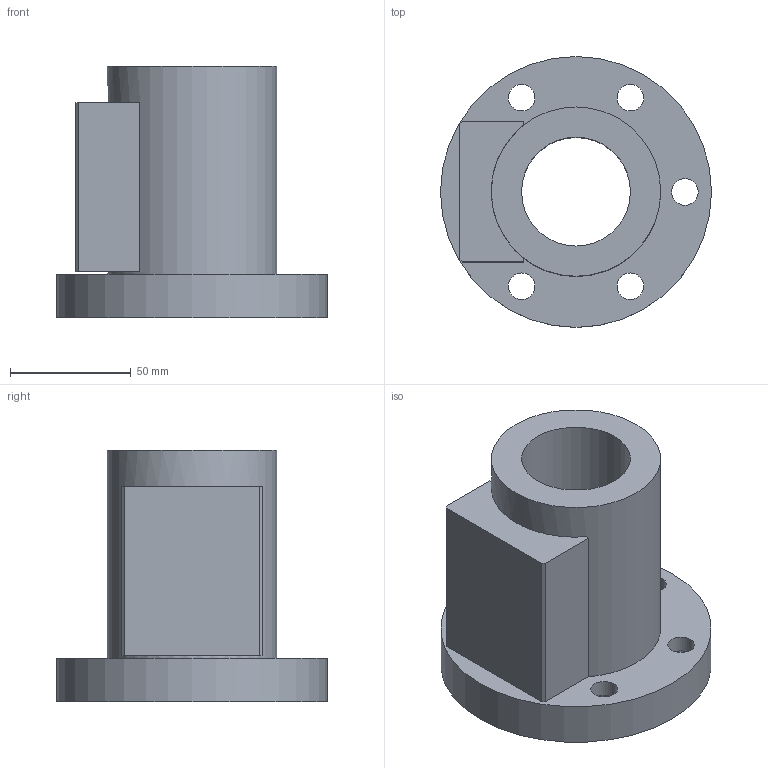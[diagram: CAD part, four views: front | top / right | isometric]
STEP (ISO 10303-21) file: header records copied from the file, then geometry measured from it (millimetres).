
FILE_DESCRIPTION(/* description */ (''),/* implementation_level */ '2;1');
FILE_NAME(/* name */ '45-10B2',/* time_stamp */ '2006-07-31T11:51:22+08:00',/* author */ (''),/* organization */ (''),/* preprocessor_version */ 'ST-DEVELOPER v9',/* originating_system */ 'UGS - NX 4.0',/* authorisation */ '');
FILE_SCHEMA (('CONFIG_CONTROL_DESIGN'));
Length unit declared in the file: millimetre
Products named in the file (1): 45-10B2
Bounding box: 112 x 112 x 104 mm (x, y, z)
Volume: 397454.5 mm3; surface area: 65212.2 mm2
Topology: 1 solids, 1 shells, 30 faces, 67 edges, 46 vertices
Faces by surface type: plane 17, cylinder 13
Full cylindrical faces by diameter (mm): 11 x5, 17.5 x5, 45 x1, 70 x1, 112 x1
Entity records: 860 total; most frequent: DIRECTION 140, CARTESIAN_POINT 123, ORIENTED_EDGE 100, EDGE_LOOP 62, AXIS2_PLACEMENT_3D 59, EDGE_CURVE 50, FACE_BOUND 45, VERTEX_POINT 42
